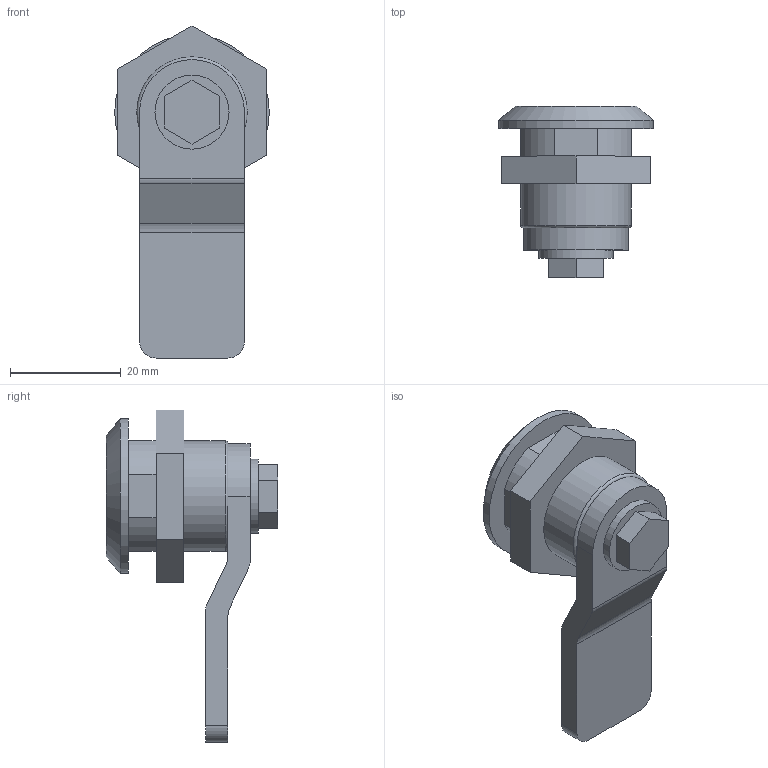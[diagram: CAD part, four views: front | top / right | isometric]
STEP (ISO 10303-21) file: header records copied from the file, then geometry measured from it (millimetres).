
FILE_DESCRIPTION (( 'STEP AP214' ), '1' );
FILE_NAME ('F30014.step', '2024-12-03T16:16:06', ( '' ), ( '' ), 'SwSTEP 2.0', 'SolidWorks 2023', '' );
FILE_SCHEMA (( 'AUTOMOTIVE_DESIGN' ));
Length unit declared in the file: millimetre
Products named in the file (1): F30014
Bounding box: 28 x 31 x 60.09 mm (x, y, z)
Volume: 13783.5 mm3; surface area: 5629.9 mm2
Topology: 1 solids, 1 shells, 57 faces, 140 edges, 92 vertices
Faces by surface type: plane 37, cylinder 18, cone 1, torus 1
Full cylindrical faces by diameter (mm): 3 x1, 13.4 x1, 20 x1, 28 x1
Entity records: 1664 total; most frequent: DIRECTION 287, CARTESIAN_POINT 282, ORIENTED_EDGE 266, EDGE_CURVE 133, AXIS2_PLACEMENT_3D 96, LINE 95, VECTOR 95, VERTEX_POINT 91
